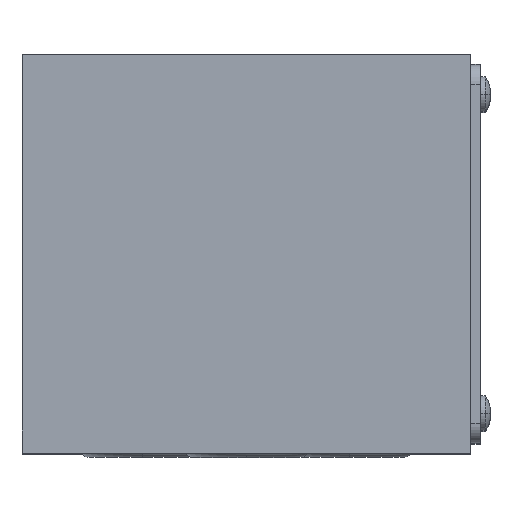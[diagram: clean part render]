
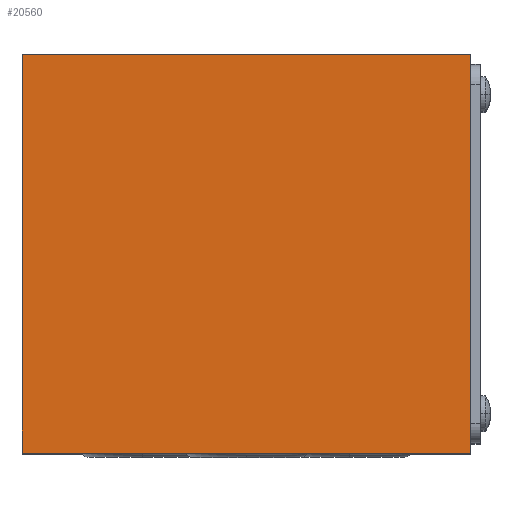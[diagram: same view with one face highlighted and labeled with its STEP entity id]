
A CAD part, top view. The second image highlights one B-rep face of the part: STEP entity #20560.
In plain terms, the highlighted planar face has unit normal (0, 0, 1) as drawn and (0, 0, -1) by its records, which use the part's own axes.
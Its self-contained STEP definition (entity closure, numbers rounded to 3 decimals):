
#2299 = CARTESIAN_POINT ( 'NONE',  ( -22.5, 20., -32. ) ) ;
#6554 = VECTOR ( 'NONE', #57238, 1000. ) ;
#8827 = VECTOR ( 'NONE', #54062, 1000. ) ;
#9453 = ORIENTED_EDGE ( 'NONE', *, *, #88243, .F. ) ;
#10215 = EDGE_CURVE ( 'NONE', #49944, #90165, #48126, .T. ) ;
#12985 = CARTESIAN_POINT ( 'NONE',  ( 22.5, 20., -32. ) ) ;
#15215 = DIRECTION ( 'NONE',  ( -1., 0., 0. ) ) ;
#17184 = FACE_OUTER_BOUND ( 'NONE', #94206, .T. ) ;
#20560 = ADVANCED_FACE ( 'NONE', ( #17184 ), #50883, .F. ) ;
#21434 = DIRECTION ( 'NONE',  ( 1., 0., 0. ) ) ;
#22531 = EDGE_CURVE ( 'NONE', #90596, #49944, #37485, .T. ) ;
#26062 = ORIENTED_EDGE ( 'NONE', *, *, #10215, .F. ) ;
#30034 = CARTESIAN_POINT ( 'NONE',  ( -22.5, 20., -32. ) ) ;
#30098 = EDGE_CURVE ( 'NONE', #64314, #90596, #65503, .T. ) ;
#35360 = CARTESIAN_POINT ( 'NONE',  ( -22.5, -20., -32. ) ) ;
#37383 = CARTESIAN_POINT ( 'NONE',  ( -22.5, -20., -32. ) ) ;
#37485 = LINE ( 'NONE', #30034, #54892 ) ;
#39820 = DIRECTION ( 'NONE',  ( 1., 0., 0. ) ) ;
#40035 = CARTESIAN_POINT ( 'NONE',  ( -22.5, 20., -32. ) ) ;
#42190 = CARTESIAN_POINT ( 'NONE',  ( 22.5, 20., -32. ) ) ;
#45606 = AXIS2_PLACEMENT_3D ( 'NONE', #35360, #65717, #21434 ) ;
#48126 = LINE ( 'NONE', #2299, #8827 ) ;
#49944 = VERTEX_POINT ( 'NONE', #40035 ) ;
#50883 = PLANE ( 'NONE',  #45606 ) ;
#54062 = DIRECTION ( 'NONE',  ( 0., -1., 0. ) ) ;
#54892 = VECTOR ( 'NONE', #15215, 1000. ) ;
#57238 = DIRECTION ( 'NONE',  ( 0., 1., 0. ) ) ;
#59744 = ORIENTED_EDGE ( 'NONE', *, *, #30098, .F. ) ;
#64314 = VERTEX_POINT ( 'NONE', #74940 ) ;
#65503 = LINE ( 'NONE', #12985, #6554 ) ;
#65717 = DIRECTION ( 'NONE',  ( 0., 0., 1. ) ) ;
#71422 = VECTOR ( 'NONE', #39820, 1000. ) ;
#73771 = LINE ( 'NONE', #91484, #71422 ) ;
#74940 = CARTESIAN_POINT ( 'NONE',  ( 22.5, -20., -32. ) ) ;
#75086 = ORIENTED_EDGE ( 'NONE', *, *, #22531, .F. ) ;
#88243 = EDGE_CURVE ( 'NONE', #90165, #64314, #73771, .T. ) ;
#90165 = VERTEX_POINT ( 'NONE', #37383 ) ;
#90596 = VERTEX_POINT ( 'NONE', #42190 ) ;
#91484 = CARTESIAN_POINT ( 'NONE',  ( -22.5, -20., -32. ) ) ;
#94206 = EDGE_LOOP ( 'NONE', ( #26062, #75086, #59744, #9453 ) ) ;
